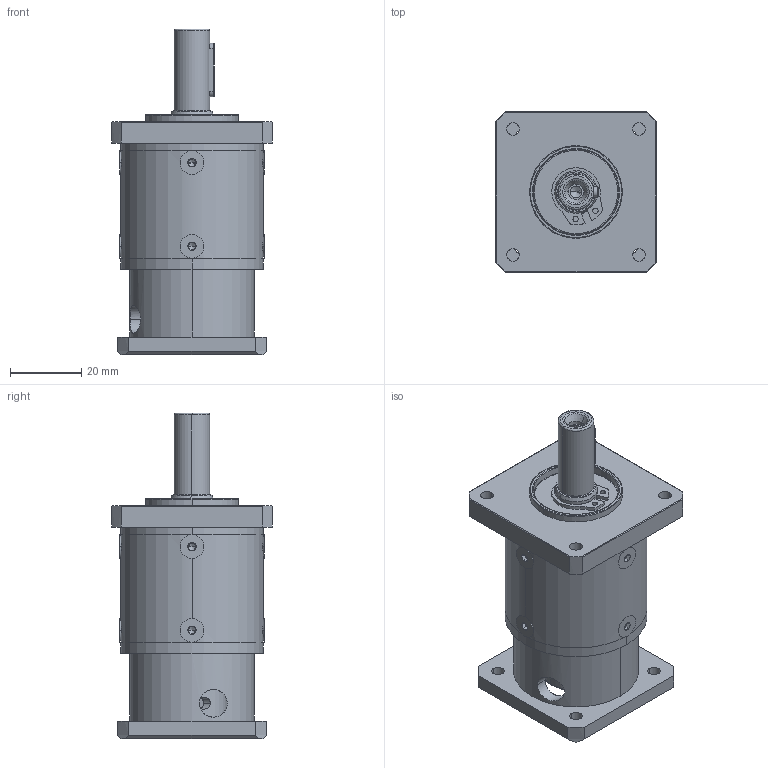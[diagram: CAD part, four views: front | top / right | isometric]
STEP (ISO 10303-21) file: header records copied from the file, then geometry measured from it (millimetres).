
FILE_DESCRIPTION (( 'STEP AP214' ), '1' );
FILE_NAME ('GSFL-040-0_ _-N017_-XX Single Stage.step', '2025-08-25T19:19:55', ( '' ), ( '' ), 'SwSTEP 2.0', 'SolidWorks 2020', '' );
FILE_SCHEMA (( 'AUTOMOTIVE_DESIGN' ));
Length unit declared in the file: millimetre
Products named in the file (1): GSFL-040-0_ _-N017_-XX Single Stage
Bounding box: 45 x 45 x 91.5 mm (x, y, z)
Volume: 52806.6 mm3; surface area: 38258.5 mm2
Topology: 26 solids, 26 shells, 946 faces, 2409 edges, 1476 vertices
Faces by surface type: cylinder 293, bspline 272, plane 231, cone 150
Entity records: 41046 total; most frequent: CARTESIAN_POINT 17102, ORIENTED_EDGE 4662, DIRECTION 3928, EDGE_CURVE 2331, AXIS2_PLACEMENT_3D 1677, VERTEX_POINT 1476, EDGE_LOOP 1109, CIRCLE 1002
